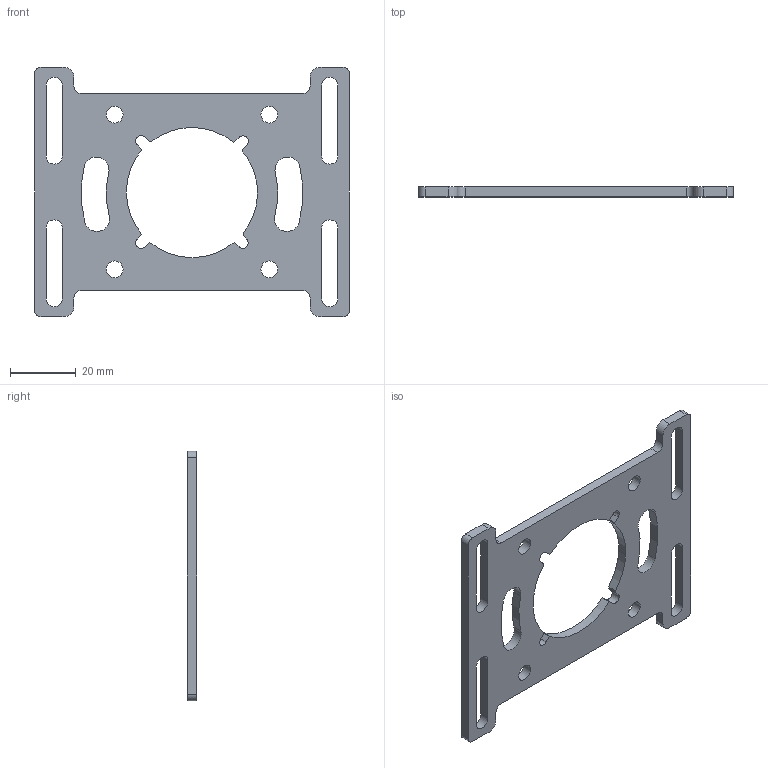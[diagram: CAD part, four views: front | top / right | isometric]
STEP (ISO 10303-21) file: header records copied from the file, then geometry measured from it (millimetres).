
FILE_DESCRIPTION(/* description */ (''),/* implementation_level */ '2;1');
FILE_NAME(/* name */ 'Motor Mount Plate Nema 23 v9.step',/* time_stamp */ '2026-06-03T23:45:19+01:00',/* author */ (''),/* organization */ (''),/* preprocessor_version */ 'ST-DEVELOPER v20.1',/* originating_system */ 'Autodesk Translation Framework v15.8.0.0',/* authorisation */ '');
FILE_SCHEMA (('AUTOMOTIVE_DESIGN { 1 0 10303 214 3 1 1 }'));
Length unit declared in the file: millimetre
Products named in the file (1): Motor Mount Plate Nema 23
Bounding box: 96 x 3 x 76 mm (x, y, z)
Volume: 11799.8 mm3; surface area: 10625.2 mm2
Topology: 1 solids, 1 shells, 79 faces, 231 edges, 154 vertices
Faces by surface type: cylinder 41, plane 38
Full cylindrical faces by diameter (mm): 5.1 x4
Entity records: 2724 total; most frequent: DIRECTION 473, CARTESIAN_POINT 465, ORIENTED_EDGE 462, EDGE_CURVE 231, AXIS2_PLACEMENT_3D 162, VERTEX_POINT 154, LINE 149, VECTOR 149
